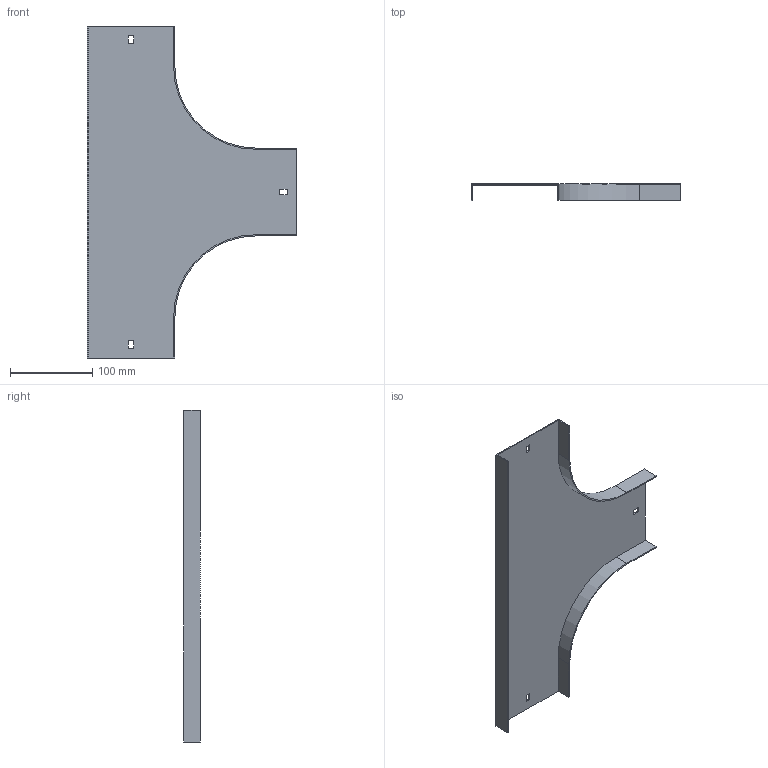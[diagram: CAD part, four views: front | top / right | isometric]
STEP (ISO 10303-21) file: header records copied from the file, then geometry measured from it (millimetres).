
FILE_DESCRIPTION (( 'STEP AP214' ), '1' );
FILE_NAME ('15N1R100.step', '2025-02-21T09:51:54', ( '' ), ( '' ), 'SwSTEP 2.0', 'SolidWorks 2023', '' );
FILE_SCHEMA (( 'AUTOMOTIVE_DESIGN' ));
Length unit declared in the file: millimetre
Products named in the file (1): 15N1R100
Bounding box: 255.5 x 20 x 404 mm (x, y, z)
Volume: 120072.9 mm3; surface area: 162254.9 mm2
Topology: 1 solids, 1 shells, 34 faces, 96 edges, 64 vertices
Faces by surface type: plane 30, cylinder 4
Entity records: 1123 total; most frequent: CARTESIAN_POINT 195, ORIENTED_EDGE 192, DIRECTION 174, EDGE_CURVE 96, VECTOR 88, LINE 88, VERTEX_POINT 64, AXIS2_PLACEMENT_3D 43
